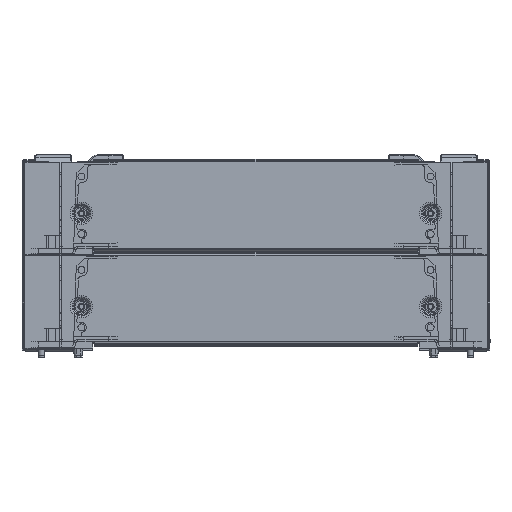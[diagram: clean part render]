
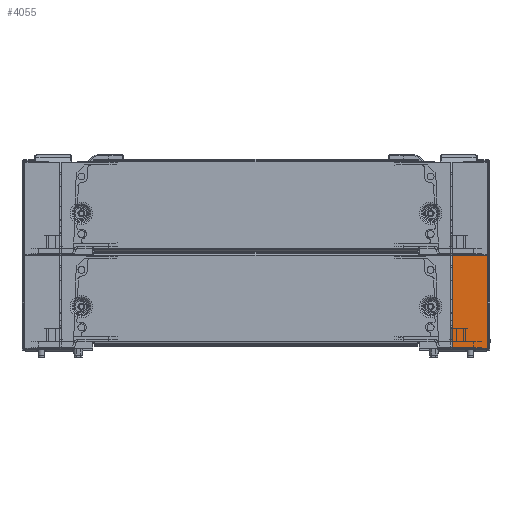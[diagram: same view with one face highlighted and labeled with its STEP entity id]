
A CAD part, top view. The second image highlights one B-rep face of the part: STEP entity #4055.
In plain terms, the highlighted planar face has unit normal (0, 0, 1) as drawn and (-1, 0, 0) by its records, which use the part's own axes.
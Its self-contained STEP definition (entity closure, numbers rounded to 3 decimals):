
#801 = VECTOR ( 'NONE', #14081, 1000. ) ;
#1553 = CARTESIAN_POINT ( 'NONE',  ( -599.5, -35.789, 37.5 ) ) ;
#1624 = CARTESIAN_POINT ( 'NONE',  ( -599.5, 55.711, 37.5 ) ) ;
#3292 = CARTESIAN_POINT ( 'NONE',  ( -599.5, -35.789, 2.921 ) ) ;
#3584 = FACE_OUTER_BOUND ( 'NONE', #12299, .T. ) ;
#4055 = ADVANCED_FACE ( 'NONE', ( #3584 ), #13723, .F. ) ;
#5200 = LINE ( 'NONE', #15375, #15370 ) ;
#6052 = CARTESIAN_POINT ( 'NONE',  ( -599.5, 55.711, 37.5 ) ) ;
#6809 = VECTOR ( 'NONE', #20230, 1000. ) ;
#8350 = EDGE_CURVE ( 'NONE', #11214, #23951, #12171, .T. ) ;
#9049 = CARTESIAN_POINT ( 'NONE',  ( -599.5, -35.789, 37.5 ) ) ;
#9435 = AXIS2_PLACEMENT_3D ( 'NONE', #20089, #12510, #22004 ) ;
#10939 = ORIENTED_EDGE ( 'NONE', *, *, #21912, .F. ) ;
#11214 = VERTEX_POINT ( 'NONE', #3292 ) ;
#12171 = LINE ( 'NONE', #1553, #801 ) ;
#12299 = EDGE_LOOP ( 'NONE', ( #10939, #18989, #21292, #18304 ) ) ;
#12461 = VERTEX_POINT ( 'NONE', #16076 ) ;
#12510 = DIRECTION ( 'NONE',  ( 1., 0., 0. ) ) ;
#13575 = VECTOR ( 'NONE', #15671, 1000. ) ;
#13723 = PLANE ( 'NONE',  #9435 ) ;
#14081 = DIRECTION ( 'NONE',  ( 0., 0., 1. ) ) ;
#15370 = VECTOR ( 'NONE', #17412, 1000. ) ;
#15375 = CARTESIAN_POINT ( 'NONE',  ( -599.5, 55.711, 2.921 ) ) ;
#15671 = DIRECTION ( 'NONE',  ( 0., 0., -1. ) ) ;
#16076 = CARTESIAN_POINT ( 'NONE',  ( -599.5, 55.711, 2.921 ) ) ;
#17412 = DIRECTION ( 'NONE',  ( 0., 1., 0. ) ) ;
#18200 = EDGE_CURVE ( 'NONE', #24259, #12461, #24331, .T. ) ;
#18284 = CARTESIAN_POINT ( 'NONE',  ( -599.5, 55.711, 37.5 ) ) ;
#18304 = ORIENTED_EDGE ( 'NONE', *, *, #18200, .T. ) ;
#18989 = ORIENTED_EDGE ( 'NONE', *, *, #8350, .T. ) ;
#20013 = EDGE_CURVE ( 'NONE', #23951, #24259, #22983, .T. ) ;
#20089 = CARTESIAN_POINT ( 'NONE',  ( -599.5, 55.711, 37.5 ) ) ;
#20230 = DIRECTION ( 'NONE',  ( 0., 1., 0. ) ) ;
#21292 = ORIENTED_EDGE ( 'NONE', *, *, #20013, .T. ) ;
#21912 = EDGE_CURVE ( 'NONE', #11214, #12461, #5200, .T. ) ;
#22004 = DIRECTION ( 'NONE',  ( 0., 0., -1. ) ) ;
#22983 = LINE ( 'NONE', #6052, #6809 ) ;
#23951 = VERTEX_POINT ( 'NONE', #9049 ) ;
#24259 = VERTEX_POINT ( 'NONE', #18284 ) ;
#24331 = LINE ( 'NONE', #1624, #13575 ) ;
